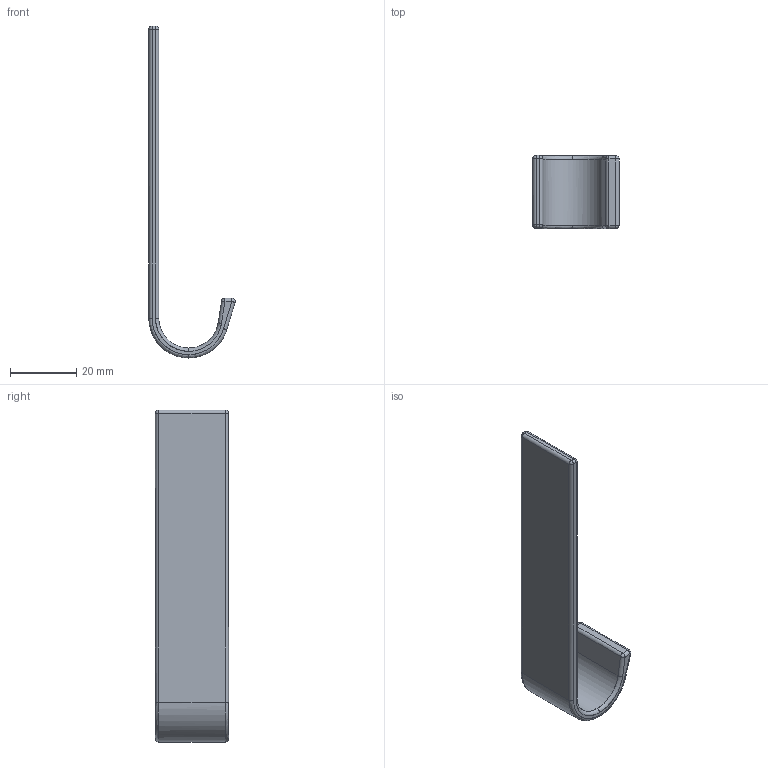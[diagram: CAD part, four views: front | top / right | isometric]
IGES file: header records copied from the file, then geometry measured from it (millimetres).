
Start section: C
Global section: file name: 8165.igs; native system: By Siemens PLM Incorporated; preprocessor: XPlus GENERIC/IGES 16.0.42; author: Author; organization: Title; date: 20231119.131624; units: millimetre
Bounding box: 26 x 22 x 100 mm (x, y, z)
Surface area: 6356.8 mm2 (no closed solid volume)
Topology: 0 solids, 0 shells, 47 faces, 208 edges, 200 vertices
Faces by surface type: bspline 47
